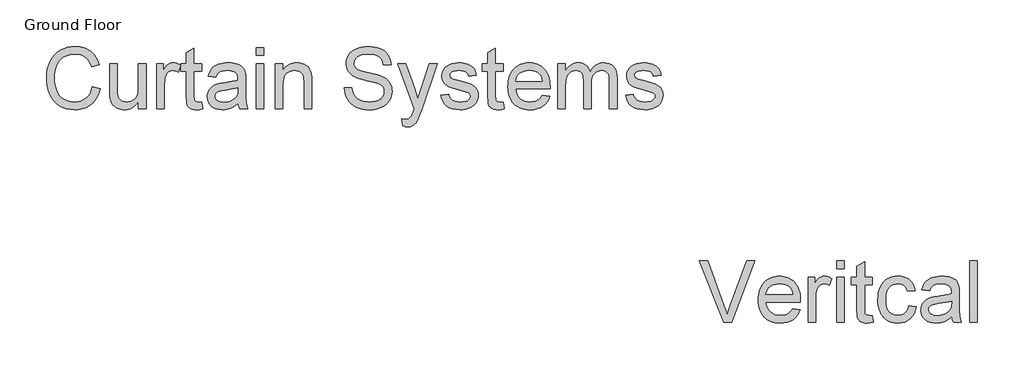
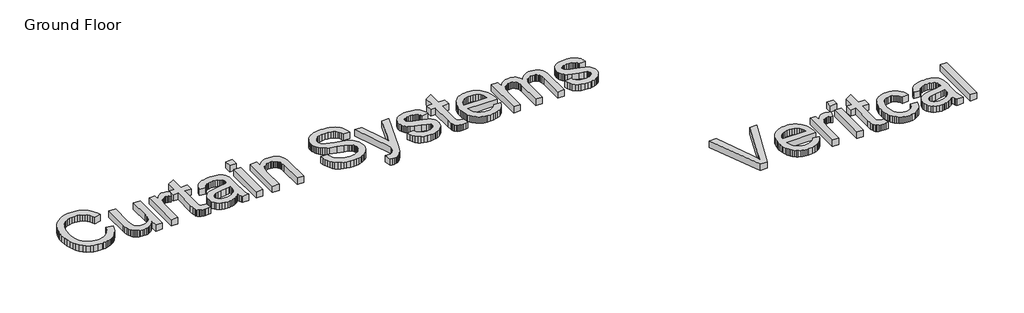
# One storey, part 2 of 5: 2 proxies.
"""IFC4 building model written with IfcOpenShell, lengths in millimetres."""

from ifc_helpers import new_model, si_unit, origin, origin_with_axes, place, context, project, spatial, polyline, outline, extrude, element, save

model = new_model("IFC4")

# Units and contexts
model_context = context("Model", 3, world=origin())
ifc_project = project(units=[si_unit("LENGTHUNIT", "METRE", prefix="MILLI")], contexts=[model_context])

# Site, building, storey
site = spatial("IfcSite", under=ifc_project)
building = spatial("IfcBuilding", under=site)
storey = spatial("IfcBuildingStorey", under=building, Name="Ground Floor", Elevation=0.0)

# Proxies
placement = place(None, origin())
element("IfcBuildingElementProxy", 1, Name="1200mm Arial", ObjectType="1200mm Arial", at=placement, inside=storey, context=model_context, shape_type="SweptSolid", body=[
    extrude(outline(polyline([(-73278.3441207, -15688.8792454), (-73131.4350298, -15726.7542454), (-73160.5048096, -15818.1151296), (-73178.6577304, -15859.4714196), (-73199.2226718, -15897.9449414), (-73222.1996338, -15933.5356952), (-73247.5886164, -15966.2436808), (-73275.3896196, -15996.0688983), (-73305.6026434, -16023.0113477), (-73337.9004062, -16046.9185964), (-73371.9556264, -16067.638212), (-73407.7683039, -16085.1701945), (-73445.3384389, -16099.5145437), (-73484.6660312, -16110.6712598), (-73525.7510809, -16118.6403427), (-73568.593588, -16123.4217925), (-73613.1935525, -16125.0156091), (-73702.7790461, -16120.1915679), (-73783.595186, -16105.7194443), (-73855.6419722, -16081.5992383), (-73918.9194048, -16047.83095), (-73974.2972457, -16004.9167099), (-74022.645257, -15953.3586488), (-74063.9634389, -15893.1567667), (-74098.2517911, -15824.3110636), (-74125.1785489, -15749.7984571), (-74144.4119474, -15672.5958647), (-74155.9519864, -15592.7032866), (-74159.7986661, -15510.1207227), (-74155.4498558, -15421.5125906), (-74142.4034247, -15338.7506943), (-74120.6593728, -15261.8350338), (-74090.2177002, -15190.7656091), (-74051.75987, -15126.7170473), (-74005.9673451, -15070.8639755), (-73952.8401256, -15023.2063939), (-73892.3782116, -14983.7443022), (-73826.6349587, -14952.800499), (-73757.663723, -14930.6977823), (-73685.4645042, -14917.4361524), (-73610.0373025, -14913.0156091), (-73526.0111129, -14918.7363122), (-73448.9609531, -14935.8984216), (-73413.0518844, -14948.7700036), (-73378.8868231, -14964.5019372), (-73346.4657693, -14983.0942223), (-73315.788723, -15004.5468591), (-73287.115716, -15028.5953321), (-73260.7067805, -15054.9751261), (-73236.5619163, -15083.6862412), (-73214.6811235, -15114.7286772), (-73177.7117521, -15183.8075125), (-73149.7986661, -15262.2116318), (-73296.707757, -15297.2173136), (-73319.8416349, -15239.4453853), (-73347.6381548, -15190.084146), (-73380.0973167, -15149.1335956), (-73417.2191207, -15116.5937341), (-73459.2187656, -15091.8010316), (-73506.3114502, -15074.0919585), (-73558.4971747, -15063.4665146), (-73615.7759389, -15059.9247), (-73681.6805908, -15063.8520792), (-73741.9542059, -15075.634217), (-73796.596784, -15095.2711133), (-73845.6083252, -15122.7627681), (-73888.3701328, -15156.871788), (-73924.2635099, -15196.3607795), (-73953.2884566, -15241.2297426), (-73975.444973, -15291.4786772), (-73991.8269864, -15344.8300622), (-74003.5284247, -15399.0063761), (-74010.5492876, -15454.007619), (-74012.8895752, -15509.8337909), (-74010.1188899, -15579.9886204), (-74001.8068337, -15645.5525409), (-73987.9534069, -15706.5255522), (-73968.5586093, -15762.9076545), (-73943.3086093, -15813.5780203), (-73911.8895752, -15857.4158221), (-73874.301507, -15894.42106), (-73830.5444048, -15924.5937341), (-73782.7433572, -15948.0055771), (-73733.0234531, -15964.7283221), (-73681.3846924, -15974.7619691), (-73627.8270752, -15978.1065181), (-73563.9578458, -15973.5514755), (-73505.1995894, -15959.8863477), (-73451.552306, -15937.1111346), (-73403.0159957, -15905.2258363), (-73360.7383856, -15864.3739187), (-73325.8672031, -15814.6988477), (-73298.4024481, -15756.2006233), (-73278.3441207, -15688.8792454)])), origin_with_axes(), (0.0, 0.0, 1.0), 150.0),
    extrude(outline(polyline([(-72396.8895752, -16106.6519727), (-72396.8895752, -15958.3082227), (-72422.3727073, -15997.3802664), (-72450.0436945, -16031.2427042), (-72479.9025369, -16059.8955363), (-72511.9492343, -16083.3387625), (-72546.1837869, -16101.5723828), (-72582.6061945, -16114.5963974), (-72621.2164573, -16122.4108061), (-72662.0145752, -16125.0156091), (-72698.410083, -16123.1864187), (-72733.5681974, -16117.6988477), (-72767.4889183, -16108.552896), (-72800.1722457, -16095.7485636), (-72830.1745539, -16080.1825125), (-72856.0522173, -16062.7514045), (-72877.8052357, -16043.4552397), (-72895.4336093, -16022.2940181), (-72909.8429666, -15998.9628747), (-72921.938936, -15973.1569443), (-72939.1907116, -15914.1207227), (-72945.6466775, -15858.45595), (-72947.7986661, -15777.5411772), (-72947.7986661, -15243.5610636), (-72800.8895752, -15243.5610636), (-72800.8895752, -15708.3906091), (-72798.6658536, -15801.3565181), (-72791.9946889, -15858.1690181), (-72783.1984353, -15884.647445), (-72770.5824019, -15908.131021), (-72754.1465887, -15928.6197461), (-72733.8909957, -15946.1136204), (-72710.4253529, -15960.1105132), (-72684.3593906, -15970.1082937), (-72655.6931086, -15976.106962), (-72624.426507, -15978.1065181), (-72592.2273771, -15976.0621289), (-72561.0504417, -15969.9289613), (-72530.8957009, -15959.7070153), (-72501.7631548, -15945.3962909), (-72475.2309282, -15927.561685), (-72452.8771462, -15906.7680948), (-72434.7018089, -15883.0155203), (-72420.7049161, -15856.3039613), (-72410.2857045, -15824.9297603), (-72402.8434105, -15787.1892596), (-72398.378034, -15743.0824592), (-72396.8895752, -15692.6093591), (-72396.8895752, -15243.5610636), (-72249.9804843, -15243.5610636), (-72249.9804843, -16106.6519727), (-72396.8895752, -16106.6519727)])), origin_with_axes(), (0.0, 0.0, 1.0), 150.0),
    extrude(outline(polyline([(-72047.9804843, -16106.6519727), (-72047.9804843, -15243.5610636), (-71919.4350298, -15243.5610636), (-71919.4350298, -15371.2457227), (-71895.2251576, -15330.4296716), (-71871.9478139, -15297.2173136), (-71849.6029985, -15271.6086488), (-71828.1907116, -15253.6036772), (-71806.7425582, -15241.1759429), (-71784.2901434, -15232.2989897), (-71760.8334673, -15226.9728179), (-71736.3725298, -15225.1974272), (-71699.9321889, -15228.0308789), (-71663.2049161, -15236.5312341), (-71626.1907116, -15250.6984926), (-71588.8895752, -15270.5326545), (-71637.9549161, -15402.2343591), (-71663.7787798, -15389.0534287), (-71689.6026434, -15379.6384784), (-71715.426507, -15373.9895082), (-71741.2503707, -15372.1065181), (-71763.7655518, -15373.9177752), (-71785.1150724, -15379.3515466), (-71805.2989325, -15388.4078321), (-71824.317132, -15401.0866318), (-71841.4523416, -15416.9754812), (-71855.9872315, -15435.6619159), (-71867.9218018, -15457.1459358), (-71877.2560525, -15481.4275409), (-71887.6752641, -15521.5262625), (-71895.1175582, -15563.4900409), (-71901.0713934, -15653.0127681), (-71901.0713934, -16106.6519727), (-72047.9804843, -16106.6519727)])), origin_with_axes(), (0.0, 0.0, 1.0), 150.0),
    extrude(outline(polyline([(-71184.8895752, -15984.1320863), (-71166.5259389, -16110.95595), (-71224.701365, -16121.5006943), (-71276.4208252, -16125.0156091), (-71313.9192272, -16123.4912838), (-71346.9343195, -16118.9183079), (-71375.4661022, -16111.2966815), (-71399.5145752, -16100.6264045), (-71419.7074019, -16087.4813406), (-71436.6722457, -16072.4353534), (-71450.4091065, -16055.4884429), (-71460.9179843, -16036.6406091), (-71468.7010099, -16011.3726758), (-71474.2603139, -15975.165467), (-71478.707757, -15869.9332227), (-71478.707757, -15390.4701545), (-71588.8895752, -15390.4701545), (-71588.8895752, -15243.5610636), (-71478.707757, -15243.5610636), (-71478.707757, -15033.8139045), (-71331.7986661, -14947.4474272), (-71331.7986661, -15243.5610636), (-71184.8895752, -15243.5610636), (-71184.8895752, -15390.4701545), (-71331.7986661, -15390.4701545), (-71331.7986661, -15865.6292454), (-71329.8618764, -15913.9772568), (-71324.051507, -15941.3792454), (-71313.901294, -15956.5507653), (-71298.944973, -15968.2073704), (-71277.7478849, -15975.6317312), (-71248.8753707, -15978.1065181), (-71184.8895752, -15984.1320863)])), origin_with_axes(), (0.0, 0.0, 1.0), 150.0),
    extrude(outline(polyline([(-70487.0713934, -15996.4701545), (-70521.9067095, -16029.1624485), (-70557.2620894, -16056.6541034), (-70593.1375333, -16078.945119), (-70629.5330411, -16096.0354954), (-70666.8610774, -16108.7142951), (-70705.5341065, -16117.7705806), (-70745.5521285, -16123.2043519), (-70786.9151434, -16125.0156091), (-70852.3266313, -16120.6578321), (-70909.6860951, -16107.5845011), (-70958.9935347, -16085.7956162), (-71000.2489502, -16055.2911772), (-71032.8246782, -16018.0079741), (-71056.0930553, -15975.8827966), (-71070.0540816, -15928.9156446), (-71074.707757, -15877.1065181), (-71072.9502997, -15845.9564826), (-71067.6779275, -15816.2052397), (-71058.8906406, -15787.8527894), (-71046.5884389, -15760.8991318), (-71031.4258856, -15735.9360636), (-71014.057544, -15713.5553818), (-70994.483414, -15693.7570863), (-70972.7034957, -15676.5411772), (-70924.104419, -15648.565325), (-70869.8384389, -15628.3366318), (-70816.9712514, -15617.0745579), (-70742.7276434, -15606.2428818), (-70592.5188366, -15583.0014045), (-70534.5227428, -15569.8742738), (-70487.9321889, -15555.7428818), (-70487.0713934, -15523.0326545), (-70489.5999801, -15487.4172426), (-70497.18574, -15457.4687341), (-70509.8286732, -15433.1871289), (-70527.5287798, -15414.5724272), (-70558.1228849, -15395.993592), (-70595.3881548, -15382.7229954), (-70639.3245894, -15374.7606375), (-70689.9321889, -15372.1065181), (-70736.989007, -15373.8729421), (-70777.4463934, -15379.1722142), (-70811.304348, -15388.0043342), (-70838.5628707, -15400.3693022), (-70860.9614857, -15417.2355132), (-70880.2397173, -15439.5713619), (-70896.3975653, -15467.3768484), (-70909.4350298, -15500.6519727), (-71056.3441207, -15482.2883363), (-71045.1627464, -15439.9658931), (-71030.8430553, -15401.9474272), (-71013.3850475, -15368.2329386), (-70992.788723, -15338.8224272), (-70968.1663863, -15313.1240963), (-70938.6303423, -15290.5461488), (-70904.1805908, -15271.0885849), (-70864.817132, -15254.7514045), (-70821.337995, -15241.8215394), (-70774.5412087, -15232.5859216), (-70724.4267734, -15227.0445508), (-70670.9946889, -15225.1974272), (-70618.7641313, -15226.8293519), (-70571.6804133, -15231.7251261), (-70529.7435347, -15239.8847497), (-70492.9534957, -15251.3082227), (-70461.005431, -15265.197516), (-70433.5944758, -15280.7546005), (-70410.7206299, -15297.9794762), (-70392.3838934, -15316.8721431), (-70377.5172386, -15337.8988654), (-70365.0536377, -15361.5259073), (-70347.335598, -15416.58095), (-70341.9556264, -15467.3678818), (-70340.1623025, -15545.1264045), (-70340.1623025, -15727.9019727), (-70338.2972457, -15887.1132653), (-70332.7020752, -15983.127825), (-70321.6552002, -16046.2169585), (-70303.4350298, -16106.6519727), (-70450.3441207, -16106.6519727), (-70463.3995184, -16082.1193022), (-70473.8725298, -16055.5781091), (-70487.0713934, -15996.4701545)]), holes=[polyline([(-70487.0713934, -15702.6519727), (-70531.4740923, -15715.3666389), (-70585.7759389, -15727.1129102), (-70724.0770752, -15747.7002681), (-70800.2933394, -15758.962342), (-70850.4705411, -15771.5156091), (-70883.3601008, -15787.7989897), (-70907.7134389, -15810.2514045), (-70922.7773593, -15837.1512625), (-70927.7986661, -15866.7769727), (-70925.0638472, -15889.6059855), (-70916.8593906, -15910.462342), (-70903.1852961, -15929.3460423), (-70884.0415639, -15946.2570863), (-70859.6075262, -15960.1912127), (-70830.0625156, -15970.1441602), (-70795.4065319, -15976.1159287), (-70755.6395752, -15978.1065181), (-70715.038723, -15975.9096964), (-70676.7333252, -15969.3192312), (-70640.723382, -15958.3351225), (-70607.0088934, -15942.9573704), (-70576.5941207, -15924.4592348), (-70550.4833252, -15904.1139755), (-70528.676507, -15881.9215927), (-70511.1736661, -15857.8820863), (-70501.0055198, -15836.3622), (-70493.7425582, -15810.2514045), (-70489.3847812, -15779.5497), (-70487.9321889, -15744.2570863), (-70487.0713934, -15702.6519727)])]), origin_with_axes(), (0.0, 0.0, 1.0), 150.0),
    extrude(outline(polyline([(-70138.1623025, -16106.6519727), (-70138.1623025, -15243.5610636), (-69991.2532116, -15243.5610636), (-69991.2532116, -16106.6519727), (-70138.1623025, -16106.6519727)])), origin_with_axes(), (0.0, 0.0, 1.0), 150.0),
    extrude(outline(polyline([(-70138.1623025, -15078.2883363), (-70138.1623025, -14931.3792454), (-69991.2532116, -14931.3792454), (-69991.2532116, -15078.2883363), (-70138.1623025, -15078.2883363)])), origin_with_axes(), (0.0, 0.0, 1.0), 150.0),
    extrude(outline(polyline([(-69770.8895752, -16106.6519727), (-69770.8895752, -15243.5610636), (-69623.9804843, -15243.5610636), (-69623.9804843, -15364.0724272), (-69599.7437123, -15331.5235991), (-69572.9424872, -15303.3146147), (-69543.5768089, -15279.4454741), (-69511.6466775, -15259.9161772), (-69477.152093, -15244.7267241), (-69440.0930553, -15233.8771147), (-69400.4695646, -15227.3673491), (-69358.2816207, -15225.1974272), (-69321.3122492, -15226.945918), (-69285.8672031, -15232.1913903), (-69251.9464822, -15240.9338441), (-69219.5500866, -15253.1732795), (-69189.9064431, -15268.2551332), (-69164.2439786, -15285.524842), (-69142.5626931, -15304.9824059), (-69124.8625866, -15326.627825), (-69098.142061, -15376.3746289), (-69080.8185525, -15434.6576545), (-69075.0081832, -15490.3941602), (-69073.0713934, -15576.6889045), (-69073.0713934, -16106.6519727), (-69219.9804843, -16106.6519727), (-69219.9804843, -15596.4872), (-69224.2127286, -15520.5220011), (-69229.503034, -15490.7707582), (-69236.9094616, -15466.5070863), (-69246.9969083, -15446.0721609), (-69260.3302712, -15427.8071573), (-69276.9095504, -15411.7120757), (-69296.7347457, -15397.7869159), (-69319.1243941, -15386.5517419), (-69343.3970326, -15378.5266176), (-69369.5526612, -15373.711543), (-69397.5912798, -15372.1065181), (-69442.2002109, -15375.7110991), (-69483.6349587, -15386.524842), (-69521.8955234, -15404.5477468), (-69556.9819048, -15429.7798136), (-69572.6846969, -15445.8166122), (-69586.2937833, -15465.0903605), (-69597.8091642, -15487.6010583), (-69607.2308394, -15513.3487056), (-69619.7930731, -15574.5548491), (-69623.9804843, -15648.7087909), (-69623.9804843, -16106.6519727), (-69770.8895752, -16106.6519727)])), origin_with_axes(), (0.0, 0.0, 1.0), 150.0),
    extrude(outline(polyline([(-68448.707757, -15702.6519727), (-68301.7986661, -15702.6519727), (-68295.0737016, -15745.4137802), (-68284.9414218, -15784.1764755), (-68271.4018266, -15818.9400586), (-68254.4549161, -15849.7045295), (-68233.2398948, -15877.0885849), (-68206.8959673, -15901.7109216), (-68175.4231335, -15923.5715394), (-68138.8213934, -15942.6704386), (-68098.43574, -15958.1737234), (-68055.6111661, -15969.2474983), (-68010.3476718, -15975.8917632), (-67962.645257, -15978.1065181), (-67920.4483465, -15976.4297603), (-67880.7979559, -15971.3994869), (-67843.6940852, -15963.0156978), (-67809.1367343, -15951.2783931), (-67777.9777322, -15936.6090039), (-67751.0689076, -15919.4289613), (-67728.4102606, -15899.7382653), (-67710.0017911, -15877.5369159), (-67695.753833, -15853.7843413), (-67685.5767201, -15829.4399698), (-67679.4704524, -15804.5038015), (-67677.4350298, -15778.9758363), (-67678.9593551, -15753.5554706), (-67683.5323309, -15729.802896), (-67691.1539573, -15707.7181126), (-67701.8242343, -15687.3011204), (-67717.2109531, -15668.44432), (-67738.9819048, -15651.0401119), (-67767.1370894, -15635.0884961), (-67801.676507, -15620.5894727), (-67879.2556974, -15597.5273278), (-68015.5841775, -15564.4943022), (-68156.001436, -15527.3724983), (-68207.2456654, -15509.4840927), (-68245.8469616, -15492.0440181), (-68285.0759211, -15468.6411417), (-68318.9787087, -15442.6200125), (-68347.5553245, -15413.9806304), (-68370.8057684, -15382.7229954), (-68388.8197066, -15349.1699059), (-68401.6868053, -15313.6441602), (-68409.4070646, -15276.1457582), (-68411.9804843, -15236.6747), (-68408.7973345, -15192.9265643), (-68399.2478849, -15150.631021), (-68383.3321356, -15109.78807), (-68361.0500866, -15070.3977113), (-68332.6528032, -15034.0649698), (-68298.3913508, -15002.3948704), (-68258.2657293, -14975.387413), (-68212.2759389, -14953.0425977), (-68161.9732045, -14935.5307902), (-68108.9087514, -14923.0223562), (-68053.0825795, -14915.5172958), (-67994.4946889, -14913.0156091), (-67930.5806264, -14915.6338619), (-67870.5401434, -14923.4886204), (-67814.37324, -14936.5798846), (-67762.0799161, -14954.9076545), (-67714.6285667, -14978.3105309), (-67672.9875866, -15006.6271147), (-67637.1569758, -15039.8574059), (-67607.1367343, -15078.0014045), (-67583.1599943, -15119.9472497), (-67565.4598877, -15164.5830806), (-67554.0364147, -15211.9088974), (-67548.8895752, -15261.9247), (-67695.7986661, -15261.9247), (-67705.6260809, -15215.0472142), (-67722.770257, -15174.2670295), (-67747.2311945, -15139.584146), (-67779.0088934, -15110.9985636), (-67818.6951505, -15088.6537483), (-67866.8817627, -15072.6931659), (-67923.5687301, -15063.1168164), (-67988.7560525, -15059.9247), (-68056.0236306, -15063.08095), (-68113.4996605, -15072.5497), (-68161.184142, -15088.33095), (-68199.0770752, -15110.4247), (-68227.9495894, -15136.9838264), (-68248.5728139, -15166.1612056), (-68260.9467485, -15197.9568377), (-68265.0713934, -15232.3707227), (-68262.1482755, -15261.9784997), (-68253.3789218, -15288.8245579), (-68238.7633323, -15312.9088974), (-68218.301507, -15334.2315181), (-68186.0934105, -15354.4243448), (-68135.3782116, -15374.8323704), (-68066.1559105, -15395.4555948), (-67978.426507, -15416.2940181), (-67816.4534957, -15455.6754102), (-67759.4616633, -15473.4831162), (-67718.4662798, -15490.0354954), (-67673.4269509, -15515.1240963), (-67634.7180553, -15543.3330806), (-67602.339593, -15574.6624485), (-67576.2915639, -15609.1122), (-67556.2691029, -15646.5030025), (-67541.9673451, -15686.6555238), (-67533.3862904, -15729.5697639), (-67530.5259389, -15775.2457227), (-67533.8166881, -15821.1996467), (-67543.688936, -15865.8085778), (-67560.1426825, -15909.072516), (-67583.1779275, -15950.9914613), (-67612.3911732, -15989.9424556), (-67647.3789218, -16024.3025409), (-67688.1411732, -16054.071717), (-67734.6779275, -16079.2499841), (-67785.6352251, -16099.272445), (-67839.6591065, -16113.5742028), (-67896.7495717, -16122.1552575), (-67956.9066207, -16125.0156091), (-68032.0558572, -16121.931092), (-68100.838794, -16112.6775409), (-68163.255431, -16097.2549556), (-68219.3057684, -16075.6633363), (-68269.3305376, -16047.8668164), (-68313.6704701, -16013.8295295), (-68352.325566, -15973.5514755), (-68385.2958252, -15927.0326545), (-68411.8549516, -15875.7794585), (-68431.2766491, -15821.2982795), (-68443.5609176, -15763.5891176), (-68448.707757, -15702.6519727)])), origin_with_axes(), (0.0, 0.0, 1.0), 150.0),
    extrude(outline(polyline([(-67328.5259389, -16437.1974272), (-67346.8895752, -16295.7400409), (-67306.8625866, -16305.4239897), (-67272.2873025, -16308.6519727), (-67233.0493764, -16304.5990608), (-67202.5628707, -16292.440325), (-67178.8192627, -16273.0365608), (-67159.8100298, -16247.2485636), (-67143.598382, -16209.3018306), (-67119.6395752, -16139.0752681), (-67108.1623025, -16103.4957227), (-67420.3441207, -15243.5610636), (-67265.4009389, -15243.5610636), (-67099.8412798, -15722.7372), (-67069.3547741, -15816.2769727), (-67042.1679843, -15914.4076545), (-66984.4946889, -15745.1178818), (-66814.3441207, -15243.5610636), (-66660.5486661, -15243.5610636), (-66960.9662798, -16127.3110636), (-67005.5841775, -16244.8096431), (-67039.0117343, -16318.9815181), (-67058.3258323, -16351.9248775), (-67078.96699, -16380.1697284), (-67100.9352073, -16403.7160707), (-67124.2304843, -16422.5639045), (-67149.3549516, -16437.0001616), (-67176.81074, -16447.3117738), (-67206.5978494, -16453.4987412), (-67238.7162798, -16455.5610636), (-67281.2539218, -16450.9701545), (-67328.5259389, -16437.1974272)])), origin_with_axes(), (0.0, 0.0, 1.0), 150.0),
    extrude(outline(polyline([(-66593.9804843, -15849.5610636), (-66447.0713934, -15831.1974272), (-66438.1944403, -15864.696717), (-66423.9016491, -15894.0354954), (-66404.1930198, -15919.2137625), (-66379.0685525, -15940.2315181), (-66348.4565141, -15956.8018306), (-66312.2851718, -15968.6377681), (-66270.5545255, -15975.7393306), (-66223.2645752, -15978.1065181), (-66176.0284247, -15975.9365963), (-66135.319973, -15969.4268306), (-66101.1392201, -15958.5772213), (-66073.4861661, -15943.3877681), (-66052.1456122, -15925.2751971), (-66036.9023593, -15905.6562341), (-66027.7564076, -15884.5308789), (-66024.707757, -15861.8991318), (-66027.7743408, -15842.0649698), (-66036.9740923, -15824.4545295), (-66052.3070113, -15809.0678108), (-66073.773098, -15795.9048136), (-66128.7922741, -15777.2542454), (-66224.9861661, -15754.0127681), (-66359.0550582, -15715.2411062), (-66446.210598, -15682.1363477), (-66476.1322066, -15665.5391353), (-66502.198169, -15646.0188051), (-66524.408485, -15623.5753569), (-66542.7631548, -15598.2087909), (-66557.1366455, -15570.6812696), (-66567.4034247, -15541.7549556), (-66573.5634921, -15511.4298491), (-66575.616848, -15479.70595), (-66573.96699, -15450.6989365), (-66569.0174161, -15422.7858505), (-66560.7681264, -15395.9666921), (-66549.2191207, -15370.2414613), (-66534.8187301, -15346.130222), (-66518.0152855, -15324.153038), (-66498.8087869, -15304.3099095), (-66477.1992343, -15286.6008363), (-66436.6342485, -15262.9648278), (-66383.8029275, -15243.1306659), (-66322.7223167, -15229.6807369), (-66257.4094616, -15225.1974272), (-66208.0392556, -15226.9997177), (-66161.7894332, -15232.4065892), (-66118.6599943, -15241.4180416), (-66078.6509389, -15254.034075), (-66042.7127286, -15269.7256588), (-66011.7958252, -15287.9637625), (-65985.9002286, -15308.748386), (-65965.0259389, -15332.0795295), (-65948.0969616, -15358.7731552), (-65934.0373025, -15389.6452255), (-65922.8469616, -15424.6957404), (-65914.5259389, -15463.9247), (-66061.4350298, -15482.2883363), (-66068.4379595, -15457.7466993), (-66079.9779985, -15436.0564471), (-66096.055147, -15417.2175799), (-66116.6694048, -15401.2300977), (-66141.9104381, -15388.4885316), (-66171.8679133, -15379.387413), (-66206.5418302, -15373.9267419), (-66245.9321889, -15372.1065181), (-66291.6260809, -15373.8460423), (-66330.2901434, -15379.0646147), (-66361.9243764, -15387.7622355), (-66386.5287798, -15399.9389045), (-66404.9820823, -15414.4289613), (-66418.1630127, -15430.0667454), (-66426.071571, -15446.8522568), (-66428.707757, -15464.7854954), (-66424.3320468, -15487.3813761), (-66411.2049161, -15507.5383363), (-66388.7525014, -15525.5433079), (-66356.4009389, -15539.9616318), (-66229.864007, -15571.2372), (-66100.0632258, -15609.6143306), (-66014.2347457, -15640.3877681), (-65984.0351718, -15655.3978889), (-65957.2787798, -15673.4566602), (-65933.9655695, -15694.5640821), (-65914.0955411, -15718.7201545), (-65898.2156583, -15745.960744), (-65886.8728849, -15776.321717), (-65880.0672208, -15809.8030735), (-65877.7986661, -15846.4048136), (-65880.4617521, -15883.1679528), (-65888.4510099, -15918.8550977), (-65901.7664396, -15953.4662483), (-65920.4080411, -15987.0014045), (-65944.0709495, -16018.1245402), (-65972.4502997, -16045.4996289), (-66005.5460916, -16069.1266708), (-66043.3583252, -16089.0056659), (-66084.8558394, -16104.760016), (-66129.007473, -16116.0131233), (-66175.8132258, -16122.7649876), (-66225.273098, -16125.0156091), (-66304.3407471, -16120.6757653), (-66373.4016491, -16107.6562341), (-66432.4558039, -16085.9570153), (-66481.5032116, -16055.5781091), (-66521.5660667, -16016.6629812), (-66553.6665639, -15969.3550977), (-66577.8047031, -15913.6544585), (-66593.9804843, -15849.5610636)])), origin_with_axes(), (0.0, 0.0, 1.0), 150.0),
    extrude(outline(polyline([(-65400.3441207, -15984.1320863), (-65381.9804843, -16110.95595), (-65440.1559105, -16121.5006943), (-65491.8753707, -16125.0156091), (-65529.3737727, -16123.4912838), (-65562.388865, -16118.9183079), (-65590.9206477, -16111.2966815), (-65614.9691207, -16100.6264045), (-65635.1619474, -16087.4813406), (-65652.1267911, -16072.4353534), (-65665.8636519, -16055.4884429), (-65676.3725298, -16036.6406091), (-65684.1555553, -16011.3726758), (-65689.7148593, -15975.165467), (-65694.1623025, -15869.9332227), (-65694.1623025, -15390.4701545), (-65804.3441207, -15390.4701545), (-65804.3441207, -15243.5610636), (-65694.1623025, -15243.5610636), (-65694.1623025, -15033.8139045), (-65547.2532116, -14947.4474272), (-65547.2532116, -15243.5610636), (-65400.3441207, -15243.5610636), (-65400.3441207, -15390.4701545), (-65547.2532116, -15390.4701545), (-65547.2532116, -15865.6292454), (-65545.3164218, -15913.9772568), (-65539.5060525, -15941.3792454), (-65529.3558394, -15956.5507653), (-65514.3995184, -15968.2073704), (-65493.2024303, -15975.6317312), (-65464.3299161, -15978.1065181), (-65400.3441207, -15984.1320863)])), origin_with_axes(), (0.0, 0.0, 1.0), 150.0),
    extrude(outline(polyline([(-64649.1566207, -15849.5610636), (-64505.116848, -15867.9247), (-64527.2016313, -15925.6159287), (-64557.0156406, -15976.4566602), (-64594.5588756, -16020.4468946), (-64639.8313366, -16057.5866318), (-64692.3667592, -16087.0868093), (-64751.6988792, -16108.1583647), (-64817.8276967, -16120.801298), (-64890.7532116, -16125.0156091), (-64937.5724144, -16123.197627), (-64981.9078636, -16117.7436808), (-65023.7595592, -16108.6537705), (-65063.1275014, -16095.927896), (-65100.0116899, -16079.5660574), (-65134.4121249, -16059.5682546), (-65166.3288064, -16035.9344878), (-65195.7617343, -16008.6647568), (-65222.1908448, -15978.1132431), (-65245.0960738, -15944.6341282), (-65264.4774215, -15908.2274121), (-65280.3348877, -15868.8930948), (-65292.6684726, -15826.6311763), (-65301.4781761, -15781.4416566), (-65306.7639982, -15733.3245357), (-65308.5259389, -15682.2798136), (-65306.7460649, -15629.497809), (-65301.4064431, -15579.7554883), (-65292.5070734, -15533.0528516), (-65280.0479559, -15489.3898988), (-65264.0290905, -15448.76663), (-65244.4504772, -15411.1830451), (-65221.3121161, -15376.6391442), (-65194.614007, -15345.1349272), (-65165.077963, -15317.0245757), (-65133.4257968, -15292.662271), (-65099.6575085, -15272.0480132), (-65063.773098, -15255.1818022), (-65025.7725653, -15242.0636382), (-64985.6559105, -15232.693521), (-64943.4231335, -15227.0714507), (-64899.0742343, -15225.1974272), (-64856.1756858, -15227.0669674), (-64815.2811768, -15232.6755877), (-64776.3907071, -15242.0232884), (-64739.5042769, -15255.1100693), (-64704.6218861, -15271.9359304), (-64671.7435347, -15292.5008718), (-64640.8692228, -15316.8048935), (-64611.9989502, -15344.8479954), (-64585.8724632, -15376.2804794), (-64563.2295078, -15410.7526474), (-64544.0700839, -15448.2644993), (-64528.3941917, -15488.8160352), (-64516.2018311, -15532.407255), (-64507.4930021, -15579.0381588), (-64502.2677047, -15628.7087465), (-64500.5259389, -15681.4190181), (-64501.3867343, -15721.0156091), (-65161.616848, -15721.0156091), (-65153.1075262, -15779.6393662), (-65136.1875156, -15830.9822284), (-65110.856816, -15875.0441957), (-65077.1154275, -15911.8252681), (-65036.8284069, -15940.823315), (-64991.860811, -15961.5362056), (-64942.2126399, -15973.96394), (-64887.8838934, -15978.1065181), (-64847.2471747, -15976.1876616), (-64809.694973, -15970.431092), (-64775.2272883, -15960.8368093), (-64743.8441207, -15947.4048136), (-64715.5454701, -15929.77644), (-64690.3313366, -15907.5930238), (-64668.2017201, -15880.854565), (-64649.1566207, -15849.5610636)]), holes=[polyline([(-65161.616848, -15574.1065181), (-64647.4350298, -15574.1065181), (-64654.9849232, -15532.537271), (-64667.3050582, -15496.4914613), (-64684.3954346, -15465.9690892), (-64706.2560525, -15440.9701545), (-64746.3189076, -15410.8423136), (-64791.9052002, -15389.3224272), (-64843.0149303, -15376.4104954), (-64899.648098, -15372.1065181), (-64951.3047918, -15375.5407333), (-64998.6754417, -15385.8433789), (-65041.7600475, -15403.0144549), (-65080.5586093, -15427.0539613), (-65113.1164041, -15456.8500373), (-65137.4787087, -15491.2908221), (-65153.6455234, -15530.3763157), (-65161.616848, -15574.1065181)])]), origin_with_axes(), (0.0, 0.0, 1.0), 150.0),
    extrude(outline(polyline([(-64353.616848, -16106.6519727), (-64353.616848, -15243.5610636), (-64206.707757, -15243.5610636), (-64206.707757, -15385.5923136), (-64186.192132, -15351.2053285), (-64162.520257, -15320.3511914), (-64135.692132, -15293.0299024), (-64105.707757, -15269.2414613), (-64073.0513295, -15249.9721964), (-64038.2070468, -15236.2084358), (-64001.174909, -15227.9501794), (-63961.9549161, -15225.1974272), (-63919.0765426, -15228.0039791), (-63880.2510809, -15236.4236346), (-63845.4785312, -15250.4563939), (-63814.7588934, -15270.1022568), (-63788.1818337, -15294.805293), (-63765.8370184, -15324.0095721), (-63747.7244474, -15357.7150941), (-63733.8441207, -15395.9218591), (-63708.0112904, -15355.9083203), (-63680.2954701, -15321.2299201), (-63650.6966597, -15291.8866584), (-63619.2148593, -15267.8785352), (-63585.8500688, -15249.2055505), (-63550.6022883, -15235.8677042), (-63513.4715177, -15227.8649965), (-63474.457757, -15225.1974272), (-63415.6457009, -15229.6359038), (-63364.0248735, -15242.9513335), (-63319.5952748, -15265.1437163), (-63282.3569048, -15296.2130522), (-63252.9194935, -15336.5180061), (-63231.8927712, -15386.4172426), (-63219.2767379, -15445.9107618), (-63215.0713934, -15514.9985636), (-63215.0713934, -16106.6519727), (-63361.9804843, -16106.6519727), (-63361.9804843, -15578.1235636), (-63365.3877997, -15504.8483505), (-63375.6097457, -15455.4602113), (-63383.8052357, -15437.6435387), (-63394.7624445, -15421.6381233), (-63408.4813721, -15407.4439649), (-63424.9620184, -15395.0610636), (-63443.60362, -15385.01845), (-63463.8054133, -15377.8451545), (-63508.8895752, -15372.1065181), (-63550.5215887, -15375.7828321), (-63588.4772883, -15386.8117738), (-63622.7566739, -15405.1933434), (-63653.3597457, -15430.9275409), (-63678.5290461, -15464.7675622), (-63696.5071178, -15507.4666034), (-63707.2939609, -15559.0246644), (-63710.8895752, -15619.4417454), (-63710.8895752, -16106.6519727), (-63857.7986661, -16106.6519727), (-63857.7986661, -15561.76845), (-63859.9237549, -15517.2581517), (-63866.2990212, -15478.7016886), (-63876.9244651, -15446.0990608), (-63891.8000866, -15419.4502681), (-63911.5176825, -15398.7373775), (-63936.6690497, -15383.9424556), (-63967.2541881, -15375.0655025), (-64003.273098, -15372.1065181), (-64032.1276789, -15374.0791744), (-64059.8703991, -15379.9971431), (-64086.5012585, -15389.8604244), (-64112.020257, -15403.6690181), (-64135.2617343, -15421.2794585), (-64155.0600298, -15442.5482795), (-64171.4151434, -15467.4754812), (-64184.3270752, -15496.0610636), (-64194.1186235, -15529.8293519), (-64201.1125866, -15570.3046716), (-64206.707757, -15671.3764045), (-64206.707757, -16106.6519727), (-64353.616848, -16106.6519727)])), origin_with_axes(), (0.0, 0.0, 1.0), 150.0),
    extrude(outline(polyline([(-63049.7986661, -15849.5610636), (-62902.8895752, -15831.1974272), (-62894.0126221, -15864.696717), (-62879.7198309, -15894.0354954), (-62860.0112016, -15919.2137625), (-62834.8867343, -15940.2315181), (-62804.274696, -15956.8018306), (-62768.1033536, -15968.6377681), (-62726.3727073, -15975.7393306), (-62679.082757, -15978.1065181), (-62631.8466065, -15975.9365963), (-62591.1381548, -15969.4268306), (-62556.9574019, -15958.5772213), (-62529.304348, -15943.3877681), (-62507.963794, -15925.2751971), (-62492.7205411, -15905.6562341), (-62483.5745894, -15884.5308789), (-62480.5259389, -15861.8991318), (-62483.5925227, -15842.0649698), (-62492.7922741, -15824.4545295), (-62508.1251931, -15809.0678108), (-62529.5912798, -15795.9048136), (-62584.6104559, -15777.2542454), (-62680.804348, -15754.0127681), (-62814.87324, -15715.2411062), (-62902.0287798, -15682.1363477), (-62931.9503884, -15665.5391353), (-62958.0163508, -15646.0188051), (-62980.2266668, -15623.5753569), (-62998.5813366, -15598.2087909), (-63012.9548274, -15570.6812696), (-63023.2216065, -15541.7549556), (-63029.3816739, -15511.4298491), (-63031.4350298, -15479.70595), (-63029.7851718, -15450.6989365), (-63024.835598, -15422.7858505), (-63016.5863082, -15395.9666921), (-63005.0373025, -15370.2414613), (-62990.6369119, -15346.130222), (-62973.8334673, -15324.153038), (-62954.6269687, -15304.3099095), (-62933.0174161, -15286.6008363), (-62892.4524303, -15262.9648278), (-62839.6211093, -15243.1306659), (-62778.5404985, -15229.6807369), (-62713.2276434, -15225.1974272), (-62663.8574374, -15226.9997177), (-62617.607615, -15232.4065892), (-62574.4781761, -15241.4180416), (-62534.4691207, -15254.034075), (-62498.5309105, -15269.7256588), (-62467.614007, -15287.9637625), (-62441.7184105, -15308.748386), (-62420.8441207, -15332.0795295), (-62403.9151434, -15358.7731552), (-62389.8554843, -15389.6452255), (-62378.6651434, -15424.6957404), (-62370.3441207, -15463.9247), (-62517.2532116, -15482.2883363), (-62524.2561413, -15457.7466993), (-62535.7961803, -15436.0564471), (-62551.8733288, -15417.2175799), (-62572.4875866, -15401.2300977), (-62597.72862, -15388.4885316), (-62627.6860951, -15379.387413), (-62662.360012, -15373.9267419), (-62701.7503707, -15372.1065181), (-62747.4442627, -15373.8460423), (-62786.1083252, -15379.0646147), (-62817.7425582, -15387.7622355), (-62842.3469616, -15399.9389045), (-62860.8002641, -15414.4289613), (-62873.9811945, -15430.0667454), (-62881.8897528, -15446.8522568), (-62884.5259389, -15464.7854954), (-62880.1502286, -15487.3813761), (-62867.023098, -15507.5383363), (-62844.5706832, -15525.5433079), (-62812.2191207, -15539.9616318), (-62685.6821889, -15571.2372), (-62555.8814076, -15609.6143306), (-62470.0529275, -15640.3877681), (-62439.8533536, -15655.3978889), (-62413.0969616, -15673.4566602), (-62389.7837514, -15694.5640821), (-62369.913723, -15718.7201545), (-62354.0338401, -15745.960744), (-62342.6910667, -15776.321717), (-62335.8854026, -15809.8030735), (-62333.616848, -15846.4048136), (-62336.2799339, -15883.1679528), (-62344.2691917, -15918.8550977), (-62357.5846214, -15953.4662483), (-62376.226223, -15987.0014045), (-62399.8891313, -16018.1245402), (-62428.2684815, -16045.4996289), (-62461.3642734, -16069.1266708), (-62499.176507, -16089.0056659), (-62540.6740212, -16104.760016), (-62584.8256548, -16116.0131233), (-62631.6314076, -16122.7649876), (-62681.0912798, -16125.0156091), (-62760.1589289, -16120.6757653), (-62829.2198309, -16107.6562341), (-62888.2739857, -16085.9570153), (-62937.3213934, -16055.5781091), (-62977.3842485, -16016.6629812), (-63009.4847457, -15969.3550977), (-63033.6228849, -15913.6544585), (-63049.7986661, -15849.5610636)])), origin_with_axes(), (0.0, 0.0, 1.0), 150.0),
])
element("IfcBuildingElementProxy", 2, Name="1200mm Arial", ObjectType="1200mm Arial", at=placement, inside=storey, context=model_context, shape_type="SweptSolid", body=[
    extrude(outline(polyline([(-61169.2536736, -20199.8558388), (-61636.9525372, -19024.5831115), (-61479.7139008, -19024.5831115), (-61166.6712872, -19871.318907), (-61131.8808042, -19969.9517195), (-61103.2593554, -20062.1285661), (-61074.1357758, -19966.6520036), (-61040.708219, -19871.318907), (-60726.8048099, -19024.5831115), (-60569.5661736, -19024.5831115), (-61017.4667417, -20199.8558388), (-61169.2536736, -20199.8558388)])), origin_with_axes(), (0.0, 0.0, 1.0), 150.0),
    extrude(outline(polyline([(-59847.0718554, -19942.7649297), (-59703.0320827, -19961.1285661), (-59725.116866, -20018.8197948), (-59754.9308753, -20069.6605263), (-59792.4741103, -20113.6507607), (-59837.7465713, -20150.7904979), (-59890.2819939, -20180.2906755), (-59949.6141139, -20201.3622309), (-60015.7429314, -20214.0051641), (-60088.6684463, -20218.2194752), (-60135.4876491, -20216.4014931), (-60179.8230983, -20210.9475469), (-60221.6747939, -20201.8576366), (-60261.0427361, -20189.1317621), (-60297.9269246, -20172.7699235), (-60332.3273596, -20152.7721208), (-60364.2440411, -20129.1383539), (-60393.676969, -20101.8686229), (-60420.1060795, -20071.3171092), (-60443.0113085, -20037.8379943), (-60462.3926562, -20001.4312783), (-60478.2501224, -19962.096961), (-60490.5837073, -19919.8350425), (-60499.3934108, -19874.6455228), (-60504.6792329, -19826.5284018), (-60506.4411736, -19775.4836797), (-60504.6612996, -19722.7016751), (-60499.3216778, -19672.9593544), (-60490.4223081, -19626.2567177), (-60477.9631906, -19582.5937649), (-60461.9443252, -19541.9704961), (-60442.3657119, -19504.3869112), (-60419.2273508, -19469.8430103), (-60392.5292417, -19438.3387934), (-60362.9931977, -19410.2284418), (-60331.3410315, -19385.8661371), (-60297.5727432, -19365.2518793), (-60261.6883327, -19348.3856684), (-60223.6878, -19335.2675043), (-60183.5711452, -19325.8973871), (-60141.3383682, -19320.2753168), (-60096.989469, -19318.4012934), (-60054.0909205, -19320.2708335), (-60013.1964115, -19325.8794539), (-59974.3059418, -19335.2271545), (-59937.4195116, -19348.3139354), (-59902.5371208, -19365.1397965), (-59869.6587694, -19385.704738), (-59838.7844575, -19410.0087596), (-59809.9141849, -19438.0518615), (-59783.7876979, -19469.4843456), (-59761.1447425, -19503.9565135), (-59741.9853186, -19541.4683654), (-59726.3094264, -19582.0199013), (-59714.1170658, -19625.6111211), (-59705.4082368, -19672.2420249), (-59700.1829394, -19721.9126126), (-59698.4411736, -19774.6228843), (-59699.301969, -19814.2194752), (-60359.5320827, -19814.2194752), (-60351.0227609, -19872.8432323), (-60334.1027503, -19924.1860945), (-60308.7720507, -19968.2480618), (-60275.0306622, -20005.0291343), (-60234.7436416, -20034.0271811), (-60189.7760457, -20054.7400718), (-60140.1278746, -20067.1678061), (-60085.7991281, -20071.3103843), (-60045.1624094, -20069.3915277), (-60007.6102077, -20063.6349581), (-59973.142523, -20054.0406755), (-59941.7593554, -20040.6086797), (-59913.4607048, -20022.9803061), (-59888.2465713, -20000.7968899), (-59866.1169548, -19974.0584311), (-59847.0718554, -19942.7649297)]), holes=[polyline([(-60359.5320827, -19667.3103843), (-59845.3502645, -19667.3103843), (-59852.9001579, -19625.7411371), (-59865.2202929, -19589.6953274), (-59882.3106693, -19559.1729553), (-59904.1712872, -19534.1740206), (-59944.2341423, -19504.0461797), (-59989.8204349, -19482.5262934), (-60040.930165, -19469.6143615), (-60097.5633327, -19465.3103843), (-60149.2200265, -19468.7445995), (-60196.5906764, -19479.0472451), (-60239.6752822, -19496.2183211), (-60278.473844, -19520.2578274), (-60311.0316388, -19550.0539034), (-60335.3939434, -19584.4946882), (-60351.5607581, -19623.5801818), (-60359.5320827, -19667.3103843)])]), origin_with_axes(), (0.0, 0.0, 1.0), 150.0),
    extrude(outline(polyline([(-59551.5320827, -20199.8558388), (-59551.5320827, -19336.7649297), (-59422.9866281, -19336.7649297), (-59422.9866281, -19464.4495888), (-59398.7767559, -19423.6335377), (-59375.4994122, -19390.4211797), (-59353.1545969, -19364.8125149), (-59331.7423099, -19346.8075434), (-59310.2941565, -19334.379809), (-59287.8417417, -19325.5028559), (-59264.3850656, -19320.176684), (-59239.9241281, -19318.4012934), (-59203.4837872, -19321.2347451), (-59166.7565145, -19329.7351002), (-59129.7423099, -19343.9023587), (-59092.4411736, -19363.7365206), (-59141.5065145, -19495.4382252), (-59167.3303781, -19482.2572948), (-59193.1542417, -19472.8423445), (-59218.9781054, -19467.1933743), (-59244.801969, -19465.3103843), (-59267.3171501, -19467.1216414), (-59288.6666707, -19472.5554127), (-59308.8505308, -19481.6116982), (-59327.8687304, -19494.2904979), (-59345.0039399, -19510.1793473), (-59359.5388298, -19528.865782), (-59371.4734001, -19550.3498019), (-59380.8076508, -19574.631407), (-59391.2268625, -19614.7301286), (-59398.6691565, -19656.693907), (-59404.6229917, -19746.2166343), (-59404.6229917, -20199.8558388), (-59551.5320827, -20199.8558388)])), origin_with_axes(), (0.0, 0.0, 1.0), 150.0),
    extrude(outline(polyline([(-59000.6229917, -19171.4922024), (-59000.6229917, -19024.5831115), (-58853.7139008, -19024.5831115), (-58853.7139008, -19171.4922024), (-59000.6229917, -19171.4922024)])), origin_with_axes(), (0.0, 0.0, 1.0), 150.0),
    extrude(outline(polyline([(-59000.6229917, -20199.8558388), (-59000.6229917, -19336.7649297), (-58853.7139008, -19336.7649297), (-58853.7139008, -20199.8558388), (-59000.6229917, -20199.8558388)])), origin_with_axes(), (0.0, 0.0, 1.0), 150.0),
    extrude(outline(polyline([(-58321.1684463, -20077.3359524), (-58302.8048099, -20204.1598161), (-58360.9802361, -20214.7045604), (-58412.6996963, -20218.2194752), (-58450.1980983, -20216.6951499), (-58483.2131906, -20212.122174), (-58511.7449733, -20204.5005476), (-58535.7934463, -20193.8302706), (-58555.986273, -20180.6852067), (-58572.9511167, -20165.6392195), (-58586.6879775, -20148.692309), (-58597.1968554, -20129.8444752), (-58604.9798809, -20104.5765419), (-58610.5391849, -20068.3693331), (-58614.9866281, -19963.1370888), (-58614.9866281, -19483.6740206), (-58725.1684463, -19483.6740206), (-58725.1684463, -19336.7649297), (-58614.9866281, -19336.7649297), (-58614.9866281, -19127.0177706), (-58468.0775372, -19040.6512934), (-58468.0775372, -19336.7649297), (-58321.1684463, -19336.7649297), (-58321.1684463, -19483.6740206), (-58468.0775372, -19483.6740206), (-58468.0775372, -19958.8331115), (-58466.1407474, -20007.1811229), (-58460.3303781, -20034.5831115), (-58450.180165, -20049.7546314), (-58435.223844, -20061.4112365), (-58414.0267559, -20068.8355973), (-58385.1542417, -20071.3103843), (-58321.1684463, -20077.3359524)])), origin_with_axes(), (0.0, 0.0, 1.0), 150.0),
    extrude(outline(polyline([(-57623.3502645, -19887.6740206), (-57476.4411736, -19906.037657), (-57492.4196892, -19975.3585909), (-57517.4006906, -20036.6992337), (-57551.3841778, -20090.0595853), (-57594.3701508, -20135.4396456), (-57644.5473525, -20171.6558211), (-57700.1045258, -20197.5245178), (-57761.0416707, -20213.0457358), (-57827.3587872, -20218.2194752), (-57869.6207057, -20216.414943), (-57909.7530521, -20211.0013466), (-57947.7558264, -20201.9786859), (-57983.6290287, -20189.346961), (-58017.3726588, -20173.1061717), (-58048.9867169, -20153.2563182), (-58078.4712029, -20129.7974004), (-58105.8261167, -20102.7294184), (-58130.4731116, -20072.2899874), (-58151.8338405, -20038.716723), (-58169.9083034, -20002.0096252), (-58184.6965003, -19962.1686939), (-58196.1984312, -19919.1939292), (-58204.4140961, -19873.085331), (-58209.3434951, -19823.8428994), (-58210.9866281, -19771.4666343), (-58208.1800763, -19703.9210909), (-58199.7604207, -19640.7333246), (-58185.7276615, -19581.9033353), (-58166.0817986, -19527.4311229), (-58140.6883327, -19478.4106151), (-58109.4127645, -19435.9357394), (-58072.255094, -19400.0064958), (-58029.2153213, -19370.6228843), (-57982.2392027, -19347.7759382), (-57933.2724946, -19331.4566911), (-57882.315197, -19321.6651428), (-57829.3673099, -19318.4012934), (-57764.1889541, -19322.884603), (-57705.2334321, -19336.334532), (-57652.5007439, -19358.7510803), (-57605.9908895, -19390.1342479), (-57566.4929314, -19429.7667053), (-57534.7959321, -19476.9311229), (-57510.8998916, -19531.6275007), (-57494.8048099, -19593.8558388), (-57641.7139008, -19612.2194752), (-57653.1822069, -19577.904223), (-57668.3626934, -19548.1260803), (-57687.2553603, -19522.8850469), (-57709.8602077, -19502.1811229), (-57735.6033717, -19486.0501747), (-57763.9109889, -19474.5280689), (-57794.7830592, -19467.6148054), (-57828.2195827, -19465.3103843), (-57878.1367524, -19469.8474936), (-57923.158148, -19483.4588218), (-57963.2837694, -19506.1443686), (-57998.5136167, -19537.9041343), (-58013.8801606, -19557.3706648), (-58027.1978319, -19579.4733814), (-58047.6865571, -19631.5873729), (-58059.9797922, -19694.2461087), (-58064.0775372, -19767.4495888), (-58060.0694584, -19841.7559631), (-58048.0452219, -19905.1409951), (-58028.0048277, -19957.6046847), (-58014.9785715, -19979.7410261), (-57999.9482758, -19999.147032), (-57965.4178248, -20030.7184986), (-57925.9557332, -20053.2695462), (-57881.562001, -20066.8001747), (-57832.2366281, -20071.3103843), (-57792.4876047, -20068.4948658), (-57756.1638298, -20060.0483104), (-57723.2653035, -20045.9707181), (-57693.7920258, -20026.2620888), (-57668.5689257, -20000.7072237), (-57648.4209321, -19969.090924), (-57633.348045, -19931.4131897), (-57623.3502645, -19887.6740206)])), origin_with_axes(), (0.0, 0.0, 1.0), 150.0),
    extrude(outline(polyline([(-56796.9866281, -20089.6740206), (-56831.8219442, -20122.3663147), (-56867.1773241, -20149.8579695), (-56903.052768, -20172.1489851), (-56939.4482758, -20189.2393615), (-56976.7763121, -20201.9181612), (-57015.4493412, -20210.9744468), (-57055.4673632, -20216.4082181), (-57096.8303781, -20218.2194752), (-57162.241866, -20213.8616982), (-57219.6013298, -20200.7883672), (-57268.9087694, -20178.9994823), (-57310.1641849, -20148.4950434), (-57342.7399129, -20111.2118402), (-57366.00829, -20069.0866627), (-57379.9693163, -20022.1195107), (-57384.6229917, -19970.3103843), (-57382.8655344, -19939.1603487), (-57377.5931622, -19909.4091059), (-57368.8058753, -19881.0566556), (-57356.5036736, -19854.1029979), (-57341.3411203, -19829.1399297), (-57323.9727787, -19806.7592479), (-57304.3986487, -19786.9609524), (-57282.6187304, -19769.7450434), (-57234.0196537, -19741.7691911), (-57179.7536736, -19721.5404979), (-57126.8864861, -19710.278424), (-57052.6428781, -19699.4467479), (-56902.4340713, -19676.2052706), (-56844.4379775, -19663.0781399), (-56797.8474236, -19648.9467479), (-56796.9866281, -19616.2365206), (-56799.5152148, -19580.6211087), (-56807.1009747, -19550.6726002), (-56819.7439079, -19526.3909951), (-56837.4440145, -19507.7762934), (-56868.0381196, -19489.1974581), (-56905.3033895, -19475.9268615), (-56949.2398241, -19467.9645036), (-56999.8474236, -19465.3103843), (-57046.9042417, -19467.0768083), (-57087.3616281, -19472.3760803), (-57121.2195827, -19481.2082003), (-57148.4781054, -19493.5731684), (-57170.8767204, -19510.4393793), (-57190.154952, -19532.775228), (-57206.3128, -19560.5807145), (-57219.3502645, -19593.8558388), (-57366.2593554, -19575.4922024), (-57355.0779811, -19533.1697593), (-57340.75829, -19495.1512934), (-57323.3002822, -19461.4368047), (-57302.7039577, -19432.0262934), (-57278.081621, -19406.3279624), (-57248.545577, -19383.7500149), (-57214.0958255, -19364.292451), (-57174.7323667, -19347.9552706), (-57131.2532297, -19335.0254056), (-57084.4564434, -19325.7897877), (-57034.3420081, -19320.2484169), (-56980.9099236, -19318.4012934), (-56928.679366, -19320.0332181), (-56881.595648, -19324.9289922), (-56839.6587694, -19333.0886158), (-56802.8687304, -19344.5120888), (-56770.9206657, -19358.4013821), (-56743.5097105, -19373.9584666), (-56720.6358646, -19391.1833424), (-56702.2991281, -19410.0760093), (-56687.4324733, -19431.1027316), (-56674.9688724, -19454.7297735), (-56657.2508327, -19509.7848161), (-56651.8708611, -19560.5717479), (-56650.0775372, -19638.3302706), (-56650.0775372, -19821.1058388), (-56648.2124804, -19980.3171314), (-56642.6173099, -20076.3316911), (-56631.5704349, -20139.4208246), (-56613.3502645, -20199.8558388), (-56760.2593554, -20199.8558388), (-56773.3147531, -20175.3231684), (-56783.7877645, -20148.7819752), (-56796.9866281, -20089.6740206)]), holes=[polyline([(-56796.9866281, -19795.8558388), (-56841.389327, -19808.570505), (-56895.6911736, -19820.3167763), (-57033.9923099, -19840.9041343), (-57110.2085741, -19852.1662081), (-57160.3857758, -19864.7194752), (-57193.2753355, -19881.0028559), (-57217.6286736, -19903.4552706), (-57232.692594, -19930.3551286), (-57237.7139008, -19959.9808388), (-57234.9790819, -19982.8098516), (-57226.7746253, -20003.6662081), (-57213.1005308, -20022.5499084), (-57193.9567986, -20039.4609524), (-57169.5227609, -20053.3950789), (-57139.9777503, -20063.3480263), (-57105.3217666, -20069.3197948), (-57065.5548099, -20071.3103843), (-57024.9539577, -20069.1135625), (-56986.6485599, -20062.5230973), (-56950.6386167, -20051.5389887), (-56916.9241281, -20036.1612365), (-56886.5093554, -20017.6631009), (-56860.3985599, -19997.3178416), (-56838.5917417, -19975.1254588), (-56821.0889008, -19951.0859524), (-56810.9207545, -19929.5660661), (-56803.6577929, -19903.4552706), (-56799.3000159, -19872.7535661), (-56797.8474236, -19837.4609524), (-56796.9866281, -19795.8558388)])]), origin_with_axes(), (0.0, 0.0, 1.0), 150.0),
    extrude(outline(polyline([(-56448.0775372, -20199.8558388), (-56448.0775372, -19024.5831115), (-56301.1684463, -19024.5831115), (-56301.1684463, -20199.8558388), (-56448.0775372, -20199.8558388)])), origin_with_axes(), (0.0, 0.0, 1.0), 150.0),
])

save(model, "model.ifc")
